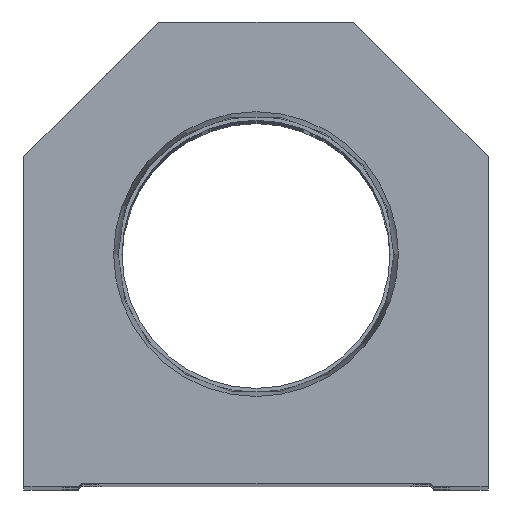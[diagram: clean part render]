
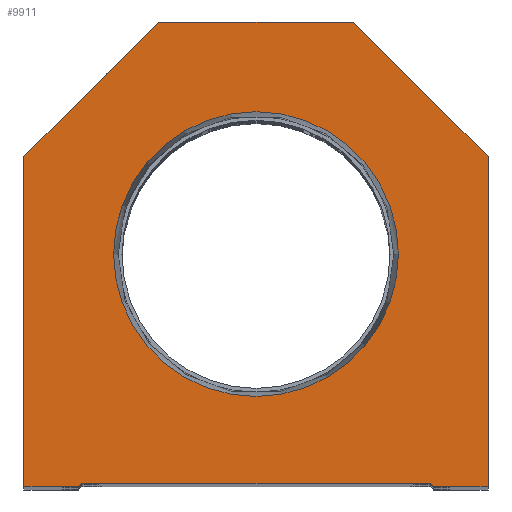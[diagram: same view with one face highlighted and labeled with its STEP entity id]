
A CAD part, top view. The second image highlights one B-rep face of the part: STEP entity #9911.
In plain terms, the highlighted planar face has unit normal (0, 0, 1).
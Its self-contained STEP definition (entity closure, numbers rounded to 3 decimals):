
#776 = VECTOR ( 'NONE', #5034, 1000. ) ;
#883 = ORIENTED_EDGE ( 'NONE', *, *, #2086, .T. ) ;
#1128 = DIRECTION ( 'NONE',  ( 0., -1., 0. ) ) ;
#1221 = EDGE_CURVE ( 'NONE', #18893, #21813, #11555, .T. ) ;
#1237 = CARTESIAN_POINT ( 'NONE',  ( -23.374, 38.1, 0. ) ) ;
#1485 = ORIENTED_EDGE ( 'NONE', *, *, #1221, .T. ) ;
#1564 = LINE ( 'NONE', #3190, #4474 ) ;
#1602 = CIRCLE ( 'NONE', #22449, 23.374 ) ;
#2086 = EDGE_CURVE ( 'NONE', #21813, #4625, #22572, .T. ) ;
#2249 = CARTESIAN_POINT ( 'NONE',  ( -29.1, 0., 0. ) ) ;
#2524 = DIRECTION ( 'NONE',  ( 1., 0., 0. ) ) ;
#2538 = EDGE_CURVE ( 'NONE', #16787, #13625, #18234, .T. ) ;
#3190 = CARTESIAN_POINT ( 'NONE',  ( 16., 76.2, 0. ) ) ;
#3366 = VERTEX_POINT ( 'NONE', #8604 ) ;
#3400 = DIRECTION ( 'NONE',  ( 0., 1., 0. ) ) ;
#3610 = DIRECTION ( 'NONE',  ( 0., 0., 1. ) ) ;
#3882 = VECTOR ( 'NONE', #3400, 1000. ) ;
#4030 = VERTEX_POINT ( 'NONE', #2249 ) ;
#4207 = CARTESIAN_POINT ( 'NONE',  ( -38.1, 0., 0. ) ) ;
#4347 = LINE ( 'NONE', #4455, #19384 ) ;
#4455 = CARTESIAN_POINT ( 'NONE',  ( -38.1, 0., 0. ) ) ;
#4474 = VECTOR ( 'NONE', #13817, 1000. ) ;
#4625 = VERTEX_POINT ( 'NONE', #7326 ) ;
#4925 = CARTESIAN_POINT ( 'NONE',  ( 38.1, 54.1, 0. ) ) ;
#4958 = ORIENTED_EDGE ( 'NONE', *, *, #17469, .T. ) ;
#5034 = DIRECTION ( 'NONE',  ( 1., 0., 0. ) ) ;
#5394 = VECTOR ( 'NONE', #15904, 1000. ) ;
#5586 = EDGE_CURVE ( 'NONE', #11976, #21346, #11908, .T. ) ;
#5708 = ORIENTED_EDGE ( 'NONE', *, *, #18066, .T. ) ;
#5955 = AXIS2_PLACEMENT_3D ( 'NONE', #9866, #11217, #2524 ) ;
#6108 = ORIENTED_EDGE ( 'NONE', *, *, #22043, .F. ) ;
#6341 = CARTESIAN_POINT ( 'NONE',  ( 16., 76.2, 0. ) ) ;
#6461 = DIRECTION ( 'NONE',  ( 1., 0., 0. ) ) ;
#6611 = CARTESIAN_POINT ( 'NONE',  ( 38.1, 0., 0. ) ) ;
#6933 = EDGE_CURVE ( 'NONE', #4625, #11976, #20805, .T. ) ;
#7028 = CARTESIAN_POINT ( 'NONE',  ( 0., 38.1, 0. ) ) ;
#7326 = CARTESIAN_POINT ( 'NONE',  ( 38.1, 0., 0. ) ) ;
#7361 = DIRECTION ( 'NONE',  ( 1., 0., 0. ) ) ;
#7457 = DIRECTION ( 'NONE',  ( 0.707, 0.707, 0. ) ) ;
#7825 = DIRECTION ( 'NONE',  ( 1., 0., 0. ) ) ;
#8072 = VECTOR ( 'NONE', #21443, 1000. ) ;
#8250 = PLANE ( 'NONE',  #5955 ) ;
#8256 = EDGE_CURVE ( 'NONE', #3366, #18893, #9208, .T. ) ;
#8438 = ORIENTED_EDGE ( 'NONE', *, *, #18743, .T. ) ;
#8541 = CARTESIAN_POINT ( 'NONE',  ( 29.1, 0., 0. ) ) ;
#8604 = CARTESIAN_POINT ( 'NONE',  ( -28.6, 0.5, 0. ) ) ;
#9208 = LINE ( 'NONE', #9665, #10414 ) ;
#9304 = CARTESIAN_POINT ( 'NONE',  ( -14.55, 14.55, 0. ) ) ;
#9665 = CARTESIAN_POINT ( 'NONE',  ( -28.6, 0.5, 0. ) ) ;
#9712 = VECTOR ( 'NONE', #11681, 1000. ) ;
#9828 = CARTESIAN_POINT ( 'NONE',  ( 23.374, 38.1, 0. ) ) ;
#9866 = CARTESIAN_POINT ( 'NONE',  ( 0., 0., 0. ) ) ;
#9911 = ADVANCED_FACE ( 'NONE', ( #18685, #16481 ), #8250, .T. ) ;
#10414 = VECTOR ( 'NONE', #7825, 1000. ) ;
#10515 = VERTEX_POINT ( 'NONE', #12596 ) ;
#10874 = VERTEX_POINT ( 'NONE', #4207 ) ;
#11217 = DIRECTION ( 'NONE',  ( 0., 0., 1. ) ) ;
#11555 = LINE ( 'NONE', #18227, #21800 ) ;
#11681 = DIRECTION ( 'NONE',  ( -0.707, 0.707, 0. ) ) ;
#11908 = LINE ( 'NONE', #4925, #9712 ) ;
#11976 = VERTEX_POINT ( 'NONE', #18159 ) ;
#12596 = CARTESIAN_POINT ( 'NONE',  ( -38.1, 54.1, 0. ) ) ;
#12858 = VERTEX_POINT ( 'NONE', #18195 ) ;
#13313 = DIRECTION ( 'NONE',  ( 0., 0., 1. ) ) ;
#13458 = AXIS2_PLACEMENT_3D ( 'NONE', #7028, #3610, #7361 ) ;
#13625 = VERTEX_POINT ( 'NONE', #9828 ) ;
#13817 = DIRECTION ( 'NONE',  ( -1., 0., 0. ) ) ;
#13860 = VECTOR ( 'NONE', #7457, 1000. ) ;
#13945 = LINE ( 'NONE', #15437, #776 ) ;
#14446 = CARTESIAN_POINT ( 'NONE',  ( -38.1, 54.1, 0. ) ) ;
#15115 = ORIENTED_EDGE ( 'NONE', *, *, #8256, .T. ) ;
#15437 = CARTESIAN_POINT ( 'NONE',  ( -28.6, 0., 0. ) ) ;
#15904 = DIRECTION ( 'NONE',  ( 1., 0., 0. ) ) ;
#16385 = EDGE_LOOP ( 'NONE', ( #6108, #21378 ) ) ;
#16481 = FACE_OUTER_BOUND ( 'NONE', #22272, .T. ) ;
#16645 = ORIENTED_EDGE ( 'NONE', *, *, #5586, .T. ) ;
#16787 = VERTEX_POINT ( 'NONE', #1237 ) ;
#17131 = EDGE_CURVE ( 'NONE', #4030, #3366, #21436, .T. ) ;
#17214 = ORIENTED_EDGE ( 'NONE', *, *, #17131, .T. ) ;
#17469 = EDGE_CURVE ( 'NONE', #10515, #10874, #4347, .T. ) ;
#17847 = ORIENTED_EDGE ( 'NONE', *, *, #20187, .T. ) ;
#18066 = EDGE_CURVE ( 'NONE', #12858, #10515, #18137, .T. ) ;
#18137 = LINE ( 'NONE', #14446, #8072 ) ;
#18159 = CARTESIAN_POINT ( 'NONE',  ( 38.1, 54.1, 0. ) ) ;
#18195 = CARTESIAN_POINT ( 'NONE',  ( -16., 76.2, 0. ) ) ;
#18227 = CARTESIAN_POINT ( 'NONE',  ( 14.55, 14.55, 0. ) ) ;
#18234 = CIRCLE ( 'NONE', #13458, 23.374 ) ;
#18685 = FACE_BOUND ( 'NONE', #16385, .T. ) ;
#18743 = EDGE_CURVE ( 'NONE', #21346, #12858, #1564, .T. ) ;
#18893 = VERTEX_POINT ( 'NONE', #21150 ) ;
#19266 = CARTESIAN_POINT ( 'NONE',  ( 28.6, 0., 0. ) ) ;
#19384 = VECTOR ( 'NONE', #1128, 1000. ) ;
#19925 = ORIENTED_EDGE ( 'NONE', *, *, #6933, .T. ) ;
#20187 = EDGE_CURVE ( 'NONE', #10874, #4030, #13945, .T. ) ;
#20438 = CARTESIAN_POINT ( 'NONE',  ( 0., 38.1, 0. ) ) ;
#20805 = LINE ( 'NONE', #6611, #3882 ) ;
#21150 = CARTESIAN_POINT ( 'NONE',  ( 28.6, 0.5, 0. ) ) ;
#21346 = VERTEX_POINT ( 'NONE', #6341 ) ;
#21378 = ORIENTED_EDGE ( 'NONE', *, *, #2538, .F. ) ;
#21436 = LINE ( 'NONE', #9304, #13860 ) ;
#21443 = DIRECTION ( 'NONE',  ( -0.707, -0.707, 0. ) ) ;
#21800 = VECTOR ( 'NONE', #22187, 1000. ) ;
#21813 = VERTEX_POINT ( 'NONE', #8541 ) ;
#22043 = EDGE_CURVE ( 'NONE', #13625, #16787, #1602, .T. ) ;
#22187 = DIRECTION ( 'NONE',  ( 0.707, -0.707, 0. ) ) ;
#22272 = EDGE_LOOP ( 'NONE', ( #17847, #17214, #15115, #1485, #883, #19925, #16645, #8438, #5708, #4958 ) ) ;
#22449 = AXIS2_PLACEMENT_3D ( 'NONE', #20438, #13313, #6461 ) ;
#22572 = LINE ( 'NONE', #19266, #5394 ) ;
